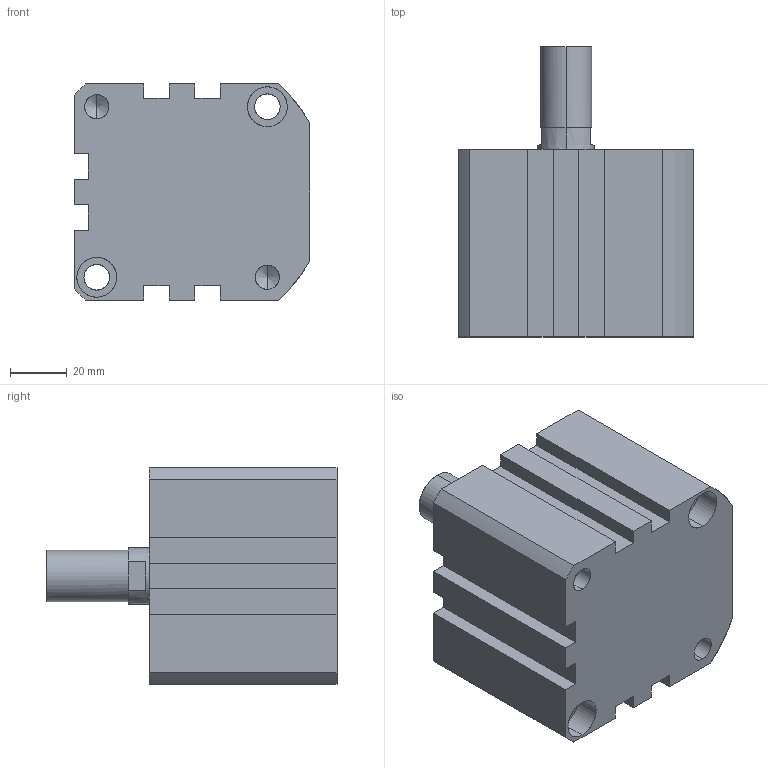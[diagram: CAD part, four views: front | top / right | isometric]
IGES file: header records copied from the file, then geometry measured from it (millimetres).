
Start section: SolidWorks IGES file using analytic representation for surfaces
Global section: file name: C:\Users\Toshiba\Desktop\XG#M2-63D-10.IGS; native system: SolidWorks 2014; preprocessor: SolidWorks 2014; author: Toshiba; date: 160524.101930; units: millimetre
Bounding box: 83 x 102 x 76 mm (x, y, z)
Surface area: 46092.4 mm2 (no closed solid volume)
Topology: 0 solids, 0 shells, 114 faces, 1915 edges, 1903 vertices
Faces by surface type: revolution 64, bspline 50
